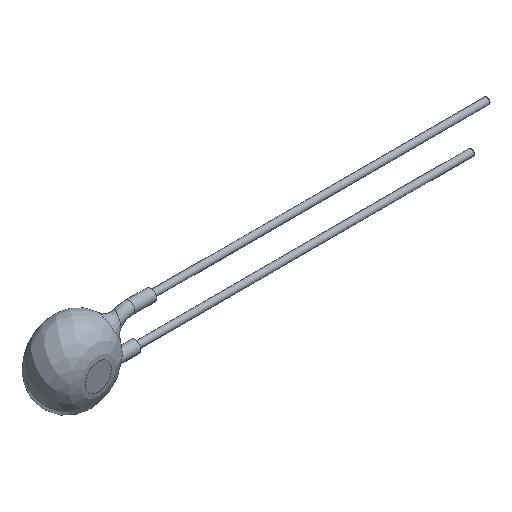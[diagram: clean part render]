
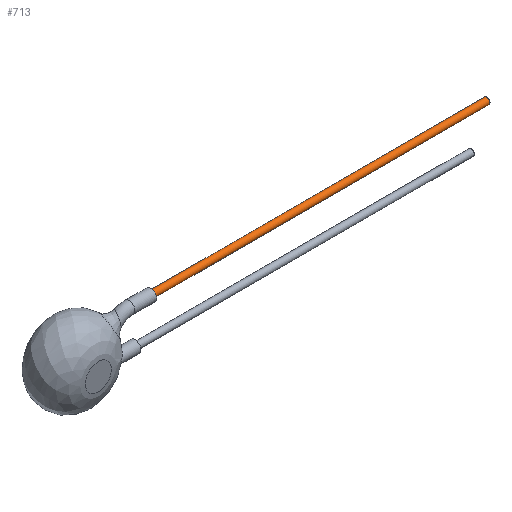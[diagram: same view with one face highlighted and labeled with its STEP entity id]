
A CAD part, isometric view. The second image highlights one B-rep face of the part: STEP entity #713.
In plain terms, the highlighted cylindrical face has radius 0.3 mm (diameter 0.6 mm), a full revolution.
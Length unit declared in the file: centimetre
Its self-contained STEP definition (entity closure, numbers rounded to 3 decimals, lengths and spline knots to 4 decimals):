
#664=CARTESIAN_POINT('',(0.675,-0.03,0.22));
#665=VERTEX_POINT('',#664);
#666=CARTESIAN_POINT('',(0.675,-0.03,0.25));
#667=DIRECTION('',(1.0,0.0,0.0));
#668=DIRECTION('',(0.0,1.0,0.0));
#669=AXIS2_PLACEMENT_3D('',#666,#667,#668);
#670=CIRCLE('',#669,0.03);
#671=EDGE_CURVE('',#665,#665,#670,.T.);
#694=CARTESIAN_POINT('',(3.875,-0.03,0.25));
#695=DIRECTION('',(-1.0,0.,0.));
#696=DIRECTION('',(0.0,1.0,0.0));
#697=AXIS2_PLACEMENT_3D('',#694,#695,#696);
#698=CYLINDRICAL_SURFACE('',#697,0.03);
#699=ORIENTED_EDGE('',*,*,#671,.T.);
#700=EDGE_LOOP('',(#699));
#701=FACE_OUTER_BOUND('',#700,.T.);
#702=CARTESIAN_POINT('',(3.875,-0.06,0.25));
#703=VERTEX_POINT('',#702);
#704=CARTESIAN_POINT('',(3.875,-0.03,0.25));
#705=DIRECTION('',(1.0,0.0,0.0));
#706=DIRECTION('',(0.0,1.0,0.0));
#707=AXIS2_PLACEMENT_3D('',#704,#705,#706);
#708=CIRCLE('',#707,0.03);
#709=EDGE_CURVE('',#703,#703,#708,.T.);
#710=ORIENTED_EDGE('',*,*,#709,.F.);
#711=EDGE_LOOP('',(#710));
#712=FACE_BOUND('',#711,.T.);
#713=ADVANCED_FACE('',(#701,#712),#698,.T.);
